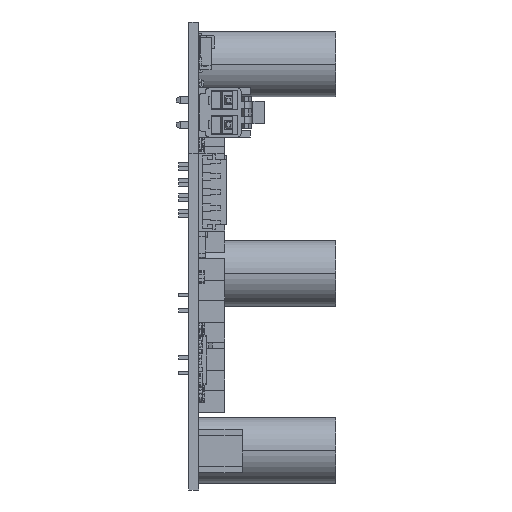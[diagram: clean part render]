
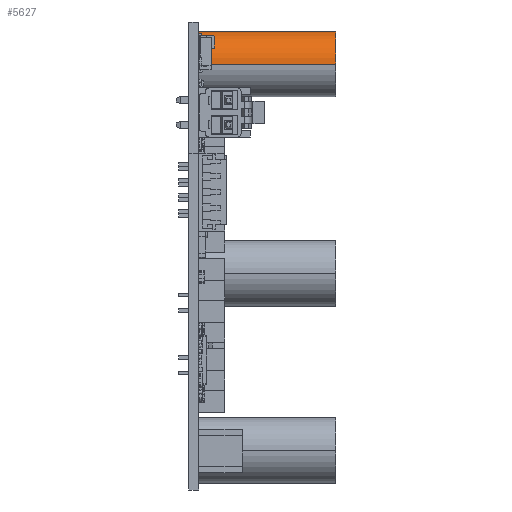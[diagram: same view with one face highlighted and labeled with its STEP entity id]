
A CAD part, left-side view. The second image highlights one B-rep face of the part: STEP entity #5627.
In plain terms, the highlighted cylindrical face has radius 5.25 mm (diameter 10.5 mm), a partial arc.
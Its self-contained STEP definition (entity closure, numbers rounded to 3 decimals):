
#5540=CARTESIAN_POINT('',(0.,0.,0.));
#5541=DIRECTION('',(0.,0.,1.));
#5542=DIRECTION('',(1.,0.,0.));
#5543=AXIS2_PLACEMENT_3D('',#5540,#5541,#5542);
#5556=DIRECTION('',(0.,0.,1.));
#5557=VECTOR('',#5556,22.);
#5558=CARTESIAN_POINT('',(5.25,0.,0.));
#5559=LINE('',#5558,#5557);
#5563=DIRECTION('',(0.,0.,1.));
#5564=VECTOR('',#5563,22.);
#5565=CARTESIAN_POINT('',(-5.25,0.,0.));
#5566=LINE('',#5565,#5564);
#5570=CARTESIAN_POINT('',(0.,0.,22.));
#5571=DIRECTION('',(0.,0.,1.));
#5572=DIRECTION('',(1.,0.,0.));
#5573=AXIS2_PLACEMENT_3D('',#5570,#5571,#5572);
#5586=CARTESIAN_POINT('',(5.25,0.,0.));
#5587=CARTESIAN_POINT('',(-5.25,0.,0.));
#5588=VERTEX_POINT('',#5586);
#5589=VERTEX_POINT('',#5587);
#5590=CARTESIAN_POINT('',(5.25,0.,22.));
#5591=CARTESIAN_POINT('',(-5.25,0.,22.));
#5592=VERTEX_POINT('',#5590);
#5593=VERTEX_POINT('',#5591);
#5613=CARTESIAN_POINT('',(0.,0.,0.));
#5614=DIRECTION('',(0.,0.,1.));
#5615=DIRECTION('',(1.,0.,0.));
#5616=AXIS2_PLACEMENT_3D('',#5613,#5614,#5615);
#5617=CYLINDRICAL_SURFACE('',#5616,5.25);
#5618=ORIENTED_EDGE('',*,*,#5599,.F.);
#5620=ORIENTED_EDGE('',*,*,#5619,.T.);
#5622=ORIENTED_EDGE('',*,*,#5621,.T.);
#5624=ORIENTED_EDGE('',*,*,#5623,.F.);
#5625=EDGE_LOOP('',(#5618,#5620,#5622,#5624));
#5626=FACE_OUTER_BOUND('',#5625,.F.);
#5544=CIRCLE('',#5543,5.25);
#5574=CIRCLE('',#5573,5.25);
#5599=EDGE_CURVE('',#5588,#5589,#5544,.T.);
#5619=EDGE_CURVE('',#5588,#5592,#5559,.T.);
#5621=EDGE_CURVE('',#5592,#5593,#5574,.T.);
#5623=EDGE_CURVE('',#5589,#5593,#5566,.T.);
#5627=ADVANCED_FACE('',(#5626),#5617,.T.);
